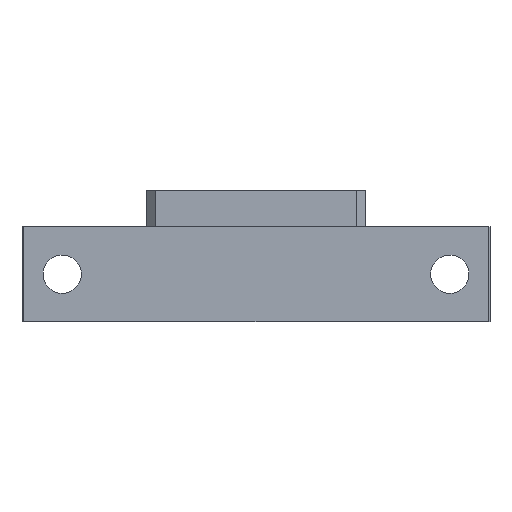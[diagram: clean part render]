
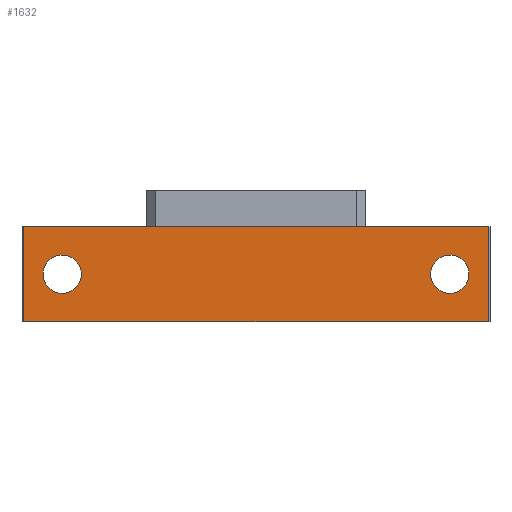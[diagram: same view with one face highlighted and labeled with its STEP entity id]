
A CAD part, front view. The second image highlights one B-rep face of the part: STEP entity #1632.
In plain terms, the highlighted planar face has unit normal (0, -1, 0).
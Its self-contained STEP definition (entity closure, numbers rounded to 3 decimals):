
#55 = LINE ( 'NONE', #439, #622 ) ;
#60 = VERTEX_POINT ( 'NONE', #445 ) ;
#109 = AXIS2_PLACEMENT_3D ( 'NONE', #2826, #3967, #2463 ) ;
#124 = EDGE_CURVE ( 'NONE', #1935, #2876, #179, .T. ) ;
#154 = EDGE_CURVE ( 'NONE', #4151, #2876, #4180, .T. ) ;
#179 = LINE ( 'NONE', #2632, #1999 ) ;
#202 = ORIENTED_EDGE ( 'NONE', *, *, #3754, .T. ) ;
#267 = CIRCLE ( 'NONE', #109, 5.25 ) ;
#404 = EDGE_CURVE ( 'NONE', #60, #3535, #2551, .T. ) ;
#408 = EDGE_LOOP ( 'NONE', ( #4218, #2603 ) ) ;
#439 = CARTESIAN_POINT ( 'NONE',  ( -63.5, -41., 26. ) ) ;
#445 = CARTESIAN_POINT ( 'NONE',  ( -53., -41., 7.75 ) ) ;
#479 = EDGE_LOOP ( 'NONE', ( #3449, #1742 ) ) ;
#480 = EDGE_CURVE ( 'NONE', #512, #826, #2883, .T. ) ;
#512 = VERTEX_POINT ( 'NONE', #1732 ) ;
#515 = DIRECTION ( 'NONE',  ( 0., -1., 0. ) ) ;
#622 = VECTOR ( 'NONE', #1915, 1000. ) ;
#624 = DIRECTION ( 'NONE',  ( 0., 0., -1. ) ) ;
#702 = LINE ( 'NONE', #1423, #4470 ) ;
#805 = AXIS2_PLACEMENT_3D ( 'NONE', #971, #1800, #3386 ) ;
#826 = VERTEX_POINT ( 'NONE', #4489 ) ;
#891 = EDGE_LOOP ( 'NONE', ( #3703, #4194, #3275, #202 ) ) ;
#971 = CARTESIAN_POINT ( 'NONE',  ( -53., -41., 13. ) ) ;
#981 = CARTESIAN_POINT ( 'NONE',  ( 63.5, -41., 26. ) ) ;
#1111 = VERTEX_POINT ( 'NONE', #4377 ) ;
#1290 = EDGE_CURVE ( 'NONE', #3535, #60, #1716, .T. ) ;
#1360 = AXIS2_PLACEMENT_3D ( 'NONE', #2594, #4913, #4518 ) ;
#1423 = CARTESIAN_POINT ( 'NONE',  ( -63.5, -41., 26. ) ) ;
#1632 = ADVANCED_FACE ( 'NONE', ( #3765, #1746, #4068 ), #2982, .F. ) ;
#1716 = CIRCLE ( 'NONE', #805, 5.25 ) ;
#1732 = CARTESIAN_POINT ( 'NONE',  ( 53., -41., 7.75 ) ) ;
#1742 = ORIENTED_EDGE ( 'NONE', *, *, #480, .T. ) ;
#1746 = FACE_BOUND ( 'NONE', #479, .T. ) ;
#1775 = EDGE_CURVE ( 'NONE', #826, #512, #267, .T. ) ;
#1800 = DIRECTION ( 'NONE',  ( 0., -1., 0. ) ) ;
#1915 = DIRECTION ( 'NONE',  ( 0., 0., -1. ) ) ;
#1935 = VERTEX_POINT ( 'NONE', #4060 ) ;
#1999 = VECTOR ( 'NONE', #4533, 1000. ) ;
#2060 = AXIS2_PLACEMENT_3D ( 'NONE', #3774, #4530, #3695 ) ;
#2137 = AXIS2_PLACEMENT_3D ( 'NONE', #2454, #515, #2871 ) ;
#2196 = EDGE_CURVE ( 'NONE', #1111, #4151, #702, .T. ) ;
#2454 = CARTESIAN_POINT ( 'NONE',  ( -53., -41., 13. ) ) ;
#2463 = DIRECTION ( 'NONE',  ( 0., 0., 1. ) ) ;
#2551 = CIRCLE ( 'NONE', #2137, 5.25 ) ;
#2594 = CARTESIAN_POINT ( 'NONE',  ( -63.5, -41., 26. ) ) ;
#2603 = ORIENTED_EDGE ( 'NONE', *, *, #404, .F. ) ;
#2632 = CARTESIAN_POINT ( 'NONE',  ( -63.5, -41., 0. ) ) ;
#2826 = CARTESIAN_POINT ( 'NONE',  ( 53., -41., 13. ) ) ;
#2871 = DIRECTION ( 'NONE',  ( 0., 0., 1. ) ) ;
#2876 = VERTEX_POINT ( 'NONE', #2956 ) ;
#2883 = CIRCLE ( 'NONE', #2060, 5.25 ) ;
#2956 = CARTESIAN_POINT ( 'NONE',  ( 63.5, -41., 0. ) ) ;
#2982 = PLANE ( 'NONE',  #1360 ) ;
#3005 = DIRECTION ( 'NONE',  ( 1., 0., 0. ) ) ;
#3275 = ORIENTED_EDGE ( 'NONE', *, *, #2196, .F. ) ;
#3386 = DIRECTION ( 'NONE',  ( 0., 0., 1. ) ) ;
#3449 = ORIENTED_EDGE ( 'NONE', *, *, #1775, .T. ) ;
#3535 = VERTEX_POINT ( 'NONE', #4588 ) ;
#3540 = CARTESIAN_POINT ( 'NONE',  ( 63.5, -41., 26. ) ) ;
#3695 = DIRECTION ( 'NONE',  ( 0., 0., 1. ) ) ;
#3703 = ORIENTED_EDGE ( 'NONE', *, *, #124, .T. ) ;
#3754 = EDGE_CURVE ( 'NONE', #1111, #1935, #55, .T. ) ;
#3765 = FACE_BOUND ( 'NONE', #408, .T. ) ;
#3774 = CARTESIAN_POINT ( 'NONE',  ( 53., -41., 13. ) ) ;
#3967 = DIRECTION ( 'NONE',  ( 0., 1., 0. ) ) ;
#4060 = CARTESIAN_POINT ( 'NONE',  ( -63.5, -41., 0. ) ) ;
#4068 = FACE_OUTER_BOUND ( 'NONE', #891, .T. ) ;
#4151 = VERTEX_POINT ( 'NONE', #3540 ) ;
#4180 = LINE ( 'NONE', #981, #4459 ) ;
#4194 = ORIENTED_EDGE ( 'NONE', *, *, #154, .F. ) ;
#4218 = ORIENTED_EDGE ( 'NONE', *, *, #1290, .F. ) ;
#4377 = CARTESIAN_POINT ( 'NONE',  ( -63.5, -41., 26. ) ) ;
#4459 = VECTOR ( 'NONE', #624, 1000. ) ;
#4470 = VECTOR ( 'NONE', #3005, 1000. ) ;
#4489 = CARTESIAN_POINT ( 'NONE',  ( 53., -41., 18.25 ) ) ;
#4518 = DIRECTION ( 'NONE',  ( 0., 0., 1. ) ) ;
#4530 = DIRECTION ( 'NONE',  ( 0., 1., 0. ) ) ;
#4533 = DIRECTION ( 'NONE',  ( 1., 0., 0. ) ) ;
#4588 = CARTESIAN_POINT ( 'NONE',  ( -53., -41., 18.25 ) ) ;
#4913 = DIRECTION ( 'NONE',  ( 0., 1., 0. ) ) ;
